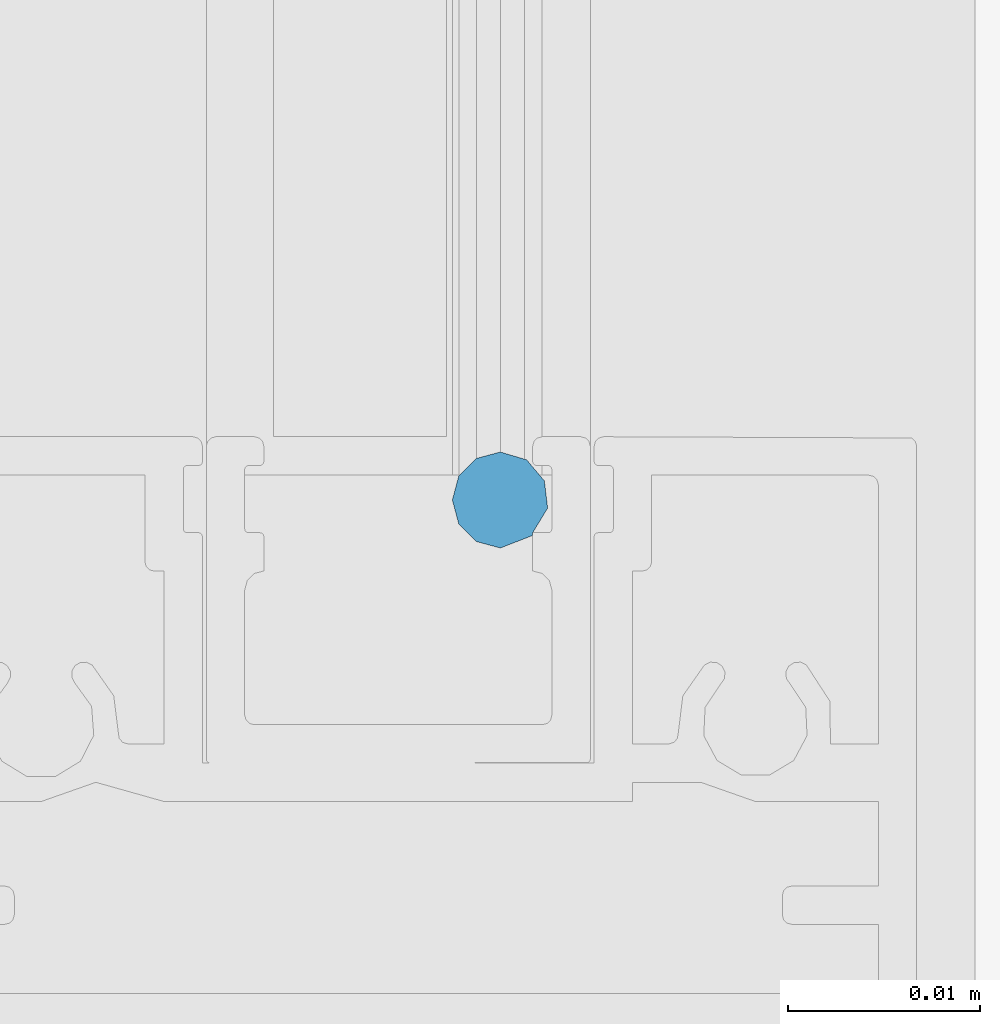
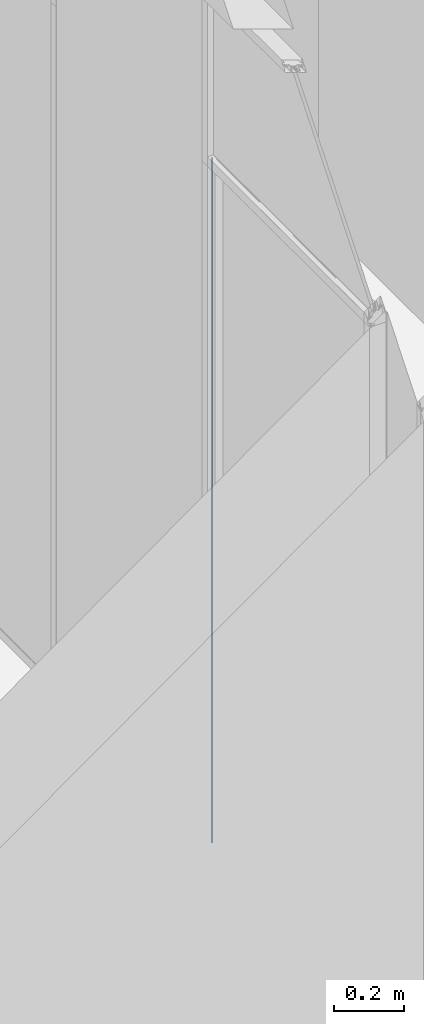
# One storey, part 48 of 387: 1 building element part, 2 elements without a shape of their own.
"""IFC2X3 building model written with IfcOpenShell, lengths in millimetres."""

from ifc_helpers import new_model, entity, si_unit, converted_unit, derived_unit, money_unit, direction, frame, origin_with_axes, place, context, subcontext, project, spatial, faceted_brep, source, transform, mapped, material, type_object, element, aggregate, save


model = new_model("IFC2X3")

# Units and contexts
model_context = context("Model", 3, precision=0.01, world=origin_with_axes(), true_north=direction((0.0, 1.0)))
body_context = subcontext(model_context, "Body", "Model", "MODEL_VIEW")
ifc_project = project(units=[si_unit("LENGTHUNIT", "METRE", prefix="MILLI"), si_unit("AREAUNIT", "SQUARE_METRE"), si_unit("VOLUMEUNIT", "CUBIC_METRE"), converted_unit("PLANEANGLEUNIT", "DEGREE", entity("IfcPlaneAngleMeasure", 0.0174532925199), si_unit("PLANEANGLEUNIT", "RADIAN"), dimensions=[0, 0, 0, 0, 0, 0, 0]), si_unit("SOLIDANGLEUNIT", "STERADIAN"), money_unit("EUR"), converted_unit("TIMEUNIT", "Year", entity("IfcTimeMeasure", 31556926.0), si_unit("TIMEUNIT", "SECOND"), dimensions=[0, 0, 1, 0, 0, 0, 0]), si_unit("MASSUNIT", "GRAM", prefix="KILO"), si_unit("THERMODYNAMICTEMPERATUREUNIT", "DEGREE_CELSIUS"), si_unit("LUMINOUSINTENSITYUNIT", "LUMEN"), si_unit("ENERGYUNIT", "JOULE", prefix="MEGA"), derived_unit("THERMALCONDUCTANCEUNIT", [(si_unit("POWERUNIT", "WATT"), 1), (si_unit("LENGTHUNIT", "METRE"), -1), (si_unit("THERMODYNAMICTEMPERATUREUNIT", "KELVIN"), -1)]), derived_unit("SPECIFICHEATCAPACITYUNIT", [(si_unit("ENERGYUNIT", "JOULE"), 1), (si_unit("MASSUNIT", "GRAM", prefix="KILO"), -1), (si_unit("THERMODYNAMICTEMPERATUREUNIT", "KELVIN"), -1)]), derived_unit("MASSDENSITYUNIT", [(si_unit("MASSUNIT", "GRAM", prefix="KILO"), 1), (si_unit("VOLUMEUNIT", "CUBIC_METRE"), -1)])], contexts=[model_context])

# Site, building, storey
site_placement = place(None, origin_with_axes())
site = spatial("IfcSite", under=ifc_project, at=site_placement, Name="Puškini 31, Narva", CompositionType="ELEMENT")
building_placement = place(site_placement, origin_with_axes())
building = spatial("IfcBuilding", under=site, at=building_placement, Name="Narva Riigigümnaasium", CompositionType="ELEMENT")
storey_placement = place(building_placement, frame((0.0, 0.0, 2640.0), z_axis=(0.0, 0.0, 1.0), x_axis=(1.0, 0.0, 0.0)))
storey = spatial("IfcBuildingStorey", under=building, at=storey_placement, Name="2.korrus +2.64", CompositionType="ELEMENT", Elevation=2640.0)

# Curtain wall, member, building element part
curtain_wall_type = type_object("IfcCurtainWallType", Name="Curtain Wall Type", PredefinedType="NOTDEFINED")
curtain_wall_placement = place(storey_placement, frame((28369.9999994, 164166.500006, -9.21871734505e-06), z_axis=(0.0, 0.0, 1.0), x_axis=(1.0, 0.0, 0.0)))
curtain_wall = element("IfcCurtainWall", 1, at=curtain_wall_placement, inside=storey, type_object=curtain_wall_type, Name="G-SKLF-11")
member_type = type_object("IfcMemberType", Name="32 x 17", PredefinedType="MULLION")
member_placement = place(curtain_wall_placement, frame((8.29558644e-09, 466.5, 0.0), z_axis=(0.0, 0.0, 1.0), x_axis=(0.0, -1.0, 0.0)))
member = element("IfcMember", 2, at=member_placement, type_object=member_type, Name="G-SKLF-11-raam", ObjectType="MULLION")
aggregate(curtain_wall, [member])
ifc_material = material(Name="Soojustus - Mineraal Kõva")
shared_shape = source(origin_with_axes(), body_context, "Body", "Brep", [
    faceted_brep([(-27.0, 6.99999999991, 0.0), (-28.2816361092, 7.77906931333, 0.0), (-28.2816361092, 7.77906931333, 2400.00000922), (-27.0, 6.99999999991, 2400.00000922), (-26.8568724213, 7.00000000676, 0.0), (-26.2036516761, 5.31494614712, 0.0), (-26.5385881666, 4.06494614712, 0.0), (-27.4536516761, 3.14988263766, 0.0), (-28.7036516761, 2.81494614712, 0.0), (-29.9536516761, 3.14988263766, 0.0), (-30.8687151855, 4.06494614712, 0.0), (-31.2036516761, 5.31494614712, 0.0), (-30.7946188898, 6.68529506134, 0.0), (-29.7013667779, 7.60722986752, 0.0), (-29.7013667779, 7.60722986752, 2400.00000922), (-30.7946188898, 6.68529506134, 2400.00000922), (-31.2036516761, 5.31494614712, 2400.00000922), (-30.8687151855, 4.06494614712, 2400.00000922), (-29.9536516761, 3.14988263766, 2400.00000922), (-28.7036516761, 2.81494614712, 2400.00000922), (-27.4536516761, 3.14988263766, 2400.00000922), (-26.5385881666, 4.06494614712, 2400.00000922), (-26.2036516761, 5.31494614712, 2400.00000922), (-26.8568724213, 7.00000000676, 2400.00000922)], [[[0, 1, 2, 3]], [[0, 4, 5, 6, 7, 8, 9, 10, 11, 12, 13, 1]], [[1, 13, 14, 2]], [[3, 2, 14, 15, 16, 17, 18, 19, 20, 21, 22, 23]], [[4, 0, 3, 23]], [[5, 4, 23, 22]], [[6, 5, 22, 21]], [[7, 6, 21, 20]], [[8, 7, 20, 19]], [[9, 8, 19, 18]], [[10, 9, 18, 17]], [[11, 10, 17, 16]], [[12, 11, 16, 15]], [[13, 12, 15, 14]]]),
])
building_element_part_placement = place(member_placement, origin_with_axes())
building_element_part = element("IfcBuildingElementPart", 3, at=building_element_part_placement, material=ifc_material, Name="Soojustus - Mineraal Kõva", context=body_context, shape_type="MappedRepresentation", body=[
    mapped(shared_shape, transform((0.0, 0.0, 0.0))),
])
aggregate(member, [building_element_part])

save(model, "model.ifc")
